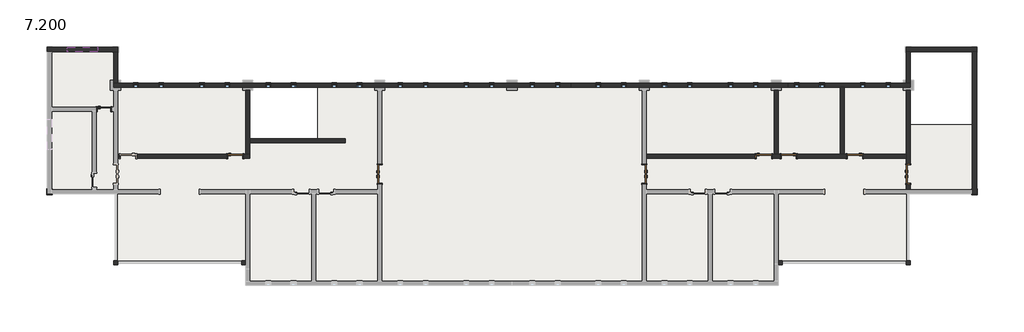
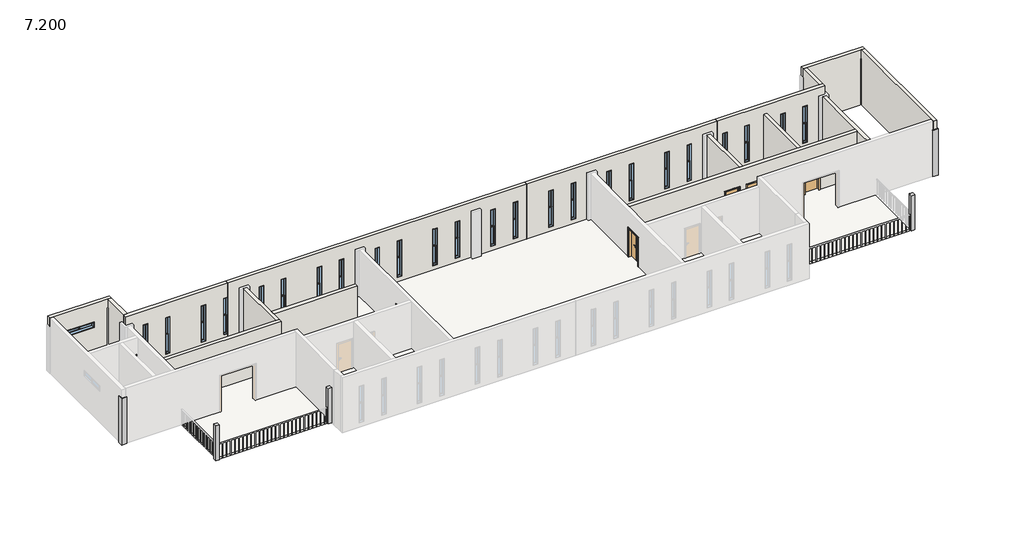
# One storey, part 2 of 3: 25 windows, 16 walls, 8 doors, 6 columns, 1 slab.
"""IFC4 building model written with IfcOpenShell, lengths in millimetres."""

from ifc_helpers import new_model, si_unit, frame, origin, place, context, project, spatial, polyline, outline, extrude, faceted_brep, transform, mapped, element, save
from components import z1_350mmx350mm_a98c464a, z1_350mmx350mm_13159b50, z3_240mmx240mm_fbb31d3a, z3_240mmx240mm_b4574760, m0921_2716a3da, m1021_ed8d65da, m1021_7d4f1ed1, m1221_25037a99, c0326_e0add0ce, c0326_266272ab, c1804_f212372e

model = new_model("IFC4")

# Units and contexts
model_context = context("Model", 3, world=origin())
ifc_project = project(units=[si_unit("LENGTHUNIT", "METRE", prefix="MILLI")], contexts=[model_context])

# Site, building, storey
site = spatial("IfcSite", under=ifc_project)
building = spatial("IfcBuilding", under=site)
storey = spatial("IfcBuildingStorey", under=building, Name="7.200", Elevation=7200.0)

# Columns
placement = place(None, origin())
z1_350mmx350mm_shape = z1_350mmx350mm_a98c464a(model_context)
element("IfcColumn", 1, ObjectType="混凝土 - 矩形 - 柱 : Z1-350mmX350mm", at=placement, inside=storey, context=model_context, shape_type="MappedRepresentation", body=[
    mapped(z1_350mmx350mm_shape, transform((-7567.0109656, -783.3904183, 0.0), x_axis=(1.0, 0.0, 0.0), y_axis=(0.0, 1.0, 0.0), z_axis=(0.0, 0.0, 1.0))),
])
z1_350mmx350mm_2_shape = z1_350mmx350mm_13159b50(model_context)
element("IfcColumn", 2, ObjectType="混凝土 - 矩形 - 柱 : Z1-350mmX350mm", at=placement, inside=storey, context=model_context, shape_type="MappedRepresentation", body=[
    mapped(z1_350mmx350mm_2_shape, transform((47032.9890344, -783.3904183, 0.0), x_axis=(-1.0, 0.0, 0.0), y_axis=(0.0, -1.0, 0.0), z_axis=(0.0, 0.0, 1.0))),
])
z3_240mmx240mm_shape = z3_240mmx240mm_fbb31d3a(model_context)
element("IfcColumn", 3, ObjectType="混凝土 - 矩形 - 柱 : Z3-240mmX240mm", at=placement, inside=storey, context=model_context, shape_type="MappedRepresentation", body=[
    mapped(z3_240mmx240mm_shape, transform((-3667.0109656, -4983.3904183, 0.0), x_axis=(1.0, 0.0, 0.0), y_axis=(0.0, 1.0, 0.0), z_axis=(0.0, 0.0, 1.0))),
])
element("IfcColumn", 4, ObjectType="混凝土 - 矩形 - 柱 : Z3-240mmX240mm", at=placement, inside=storey, context=model_context, shape_type="MappedRepresentation", body=[
    mapped(z3_240mmx240mm_shape, transform((3892.9890344, -4983.3904183, 0.0), x_axis=(1.0, 0.0, 0.0), y_axis=(0.0, 1.0, 0.0), z_axis=(0.0, 0.0, 1.0))),
])
z3_240mmx240mm_2_shape = z3_240mmx240mm_b4574760(model_context)
element("IfcColumn", 5, ObjectType="混凝土 - 矩形 - 柱 : Z3-240mmX240mm", at=placement, inside=storey, context=model_context, shape_type="MappedRepresentation", body=[
    mapped(z3_240mmx240mm_2_shape, transform((43132.9890344, -4983.3904183, 0.0), x_axis=(-1.0, 0.0, 0.0), y_axis=(0.0, -1.0, 0.0), z_axis=(0.0, 0.0, 1.0))),
])
element("IfcColumn", 6, ObjectType="混凝土 - 矩形 - 柱 : Z3-240mmX240mm", at=placement, inside=storey, context=model_context, shape_type="MappedRepresentation", body=[
    mapped(z3_240mmx240mm_2_shape, transform((35572.9890344, -4983.3904183, 0.0), x_axis=(-1.0, 0.0, 0.0), y_axis=(0.0, -1.0, 0.0), z_axis=(0.0, 0.0, 1.0))),
])

# Doors
m0921_shape = m0921_2716a3da(model_context)
element("IfcDoor", 7, ObjectType="单嵌板木门 1 : M0921", at=placement, inside=storey, context=model_context, shape_type="MappedRepresentation", body=[
    mapped(m0921_shape, transform((-4352.0109656, 4101.6095817, 7200.0), x_axis=(1.0, 0.0, 0.0), y_axis=(0.0, 1.0, 0.0), z_axis=(0.0, 0.0, 1.0))),
])
m1021_shape = m1021_ed8d65da(model_context)
element("IfcDoor", 8, ObjectType="单嵌板木门 1 : M1021", at=placement, inside=storey, context=model_context, shape_type="MappedRepresentation", body=[
    mapped(m1021_shape, transform((3397.9890344, 1316.6095817, 7200.0), x_axis=(1.0, 0.0, 0.0), y_axis=(0.0, 1.0, 0.0), z_axis=(0.0, 0.0, 1.0))),
])
element("IfcDoor", 9, ObjectType="单嵌板木门 1 : M1021", at=placement, inside=storey, context=model_context, shape_type="MappedRepresentation", body=[
    mapped(m1021_shape, transform((34597.9890344, 1316.6095817, 7200.0), x_axis=(1.0, 0.0, 0.0), y_axis=(0.0, 1.0, 0.0), z_axis=(0.0, 0.0, 1.0))),
])
m1021_2_shape = m1021_7d4f1ed1(model_context)
element("IfcDoor", 10, ObjectType="单嵌板木门 1 : M1021", at=placement, inside=storey, context=model_context, shape_type="MappedRepresentation", body=[
    mapped(m1021_2_shape, transform((36067.9890344, 1316.6095817, 7200.0), x_axis=(-1.0, 0.0, 0.0), y_axis=(0.0, -1.0, 0.0), z_axis=(0.0, 0.0, 1.0))),
])
element("IfcDoor", 11, ObjectType="单嵌板木门 1 : M1021", at=placement, inside=storey, context=model_context, shape_type="MappedRepresentation", body=[
    mapped(m1021_2_shape, transform((39967.9890344, 1316.6095817, 7200.0), x_axis=(-1.0, 0.0, 0.0), y_axis=(0.0, -1.0, 0.0), z_axis=(0.0, 0.0, 1.0))),
])
m1221_shape = m1221_25037a99(model_context)
element("IfcDoor", 12, ObjectType="双面嵌板木门 1 : M1221", at=placement, inside=storey, context=model_context, shape_type="MappedRepresentation", body=[
    mapped(m1221_shape, transform((11932.9890344, 261.6095817, 7200.0), x_axis=(0.0, 1.0, 0.0), y_axis=(-1.0, 0.0, 0.0), z_axis=(0.0, 0.0, 1.0))),
])
element("IfcDoor", 13, ObjectType="双面嵌板木门 1 : M1221", at=placement, inside=storey, context=model_context, shape_type="MappedRepresentation", body=[
    mapped(m1221_shape, transform((27532.9890344, 266.6095817, 7200.0), x_axis=(0.0, -1.0, 0.0), y_axis=(1.0, 0.0, 0.0), z_axis=(0.0, 0.0, 1.0))),
])
element("IfcDoor", 14, ObjectType="双面嵌板木门 1 : M1221", at=placement, inside=storey, context=model_context, shape_type="MappedRepresentation", body=[
    mapped(m1221_shape, transform((43132.9890344, 266.6095817, 7200.0), x_axis=(0.0, 1.0, 0.0), y_axis=(-1.0, 0.0, 0.0), z_axis=(0.0, 0.0, 1.0))),
])

# Slab
element("IfcSlab", 15, ObjectType="150mm厚钢筋混凝土", at=placement, inside=storey, context=model_context, shape_type="SweptSolid", body=[
    extrude(outline(polyline([(-3547.0109656, 7496.6095817), (-3547.0109656, 5396.6095817), (4252.9890344, 5396.6095817), (4252.9890344, 2346.6095817), (8272.9890344, 2346.6095817), (8272.9890344, 5396.6095817), (43252.9890344, 5396.6095817), (43252.9890344, 3176.6095817), (46912.9890344, 3176.6095817), (46912.9890344, -663.3904183), (43012.9890344, -663.3904183), (43012.9890344, -4863.3904183), (35212.9890344, -4863.3904183), (35212.9890344, -6063.3904183), (4252.9890344, -6063.3904183), (4252.9890344, -4863.3904183), (-3547.0109656, -4863.3904183), (-3547.0109656, -663.3904183), (-7447.0109656, -663.3904183), (-7447.0109656, 7496.6095817), (-3547.0109656, 7496.6095817)])), frame((0.0, 0.0, 7050.0), z_axis=(0.0, 0.0, 1.0), x_axis=(1.0, 0.0, 0.0)), (0.0, 0.0, 1.0), 150.0),
])

# Walls
element("IfcWall", 16, ObjectType="240mm厚墙", at=placement, inside=storey, context=model_context, shape_type="Brep", body=[
    faceted_brep([(-3547.0109656, 7736.6095817, 7200.0), (-7687.0109656, 7736.6095817, 7200.0), (-7687.0109656, 7736.6095817, 11100.0), (-3547.0109656, 7736.6095817, 11100.0), (-4717.0109656, 7736.6095817, 9800.0), (-6517.0109656, 7736.6095817, 9800.0), (-6517.0109656, 7736.6095817, 9400.0), (-4717.0109656, 7736.6095817, 9400.0), (-3547.0109656, 7496.6095817, 7200.0), (-3547.0109656, 7496.6095817, 11100.0), (-3787.0109656, 7496.6095817, 11100.0), (-7447.0109656, 7496.6095817, 11100.0), (-7687.0109656, 7496.6095817, 11100.0), (-7687.0109656, 7496.6095817, 7200.0), (-7447.0109656, 7496.6095817, 7200.0), (-3787.0109656, 7496.6095817, 7200.0), (-4717.0109656, 7496.6095817, 9800.0), (-4717.0109656, 7496.6095817, 9400.0), (-6517.0109656, 7496.6095817, 9400.0), (-6517.0109656, 7496.6095817, 9800.0)], [[[0, 1, 2, 3], [4, 5, 6, 7]], [[8, 9, 10, 11, 12, 13, 14, 15], [16, 17, 18, 19]], [[1, 0, 8, 15, 14, 13]], [[3, 2, 12, 11, 10, 9]], [[0, 3, 9, 8]], [[2, 1, 13, 12]], [[17, 16, 4, 7]], [[18, 17, 7, 6]], [[19, 18, 6, 5]], [[16, 19, 5, 4]]]),
])
element("IfcWall", 17, ObjectType="240mm厚墙", at=placement, inside=storey, context=model_context, shape_type="SweptSolid", body=[
    extrude(outline(polyline([(7200.0, 3064.12606), (7200.0, 23187.7522944), (11100.0, 23187.7522944), (11100.0, 3064.12606), (10100.0, 3064.12606), (10100.0, 3082.9890344), (7500.0, 3082.9890344), (7500.0, 3064.12606), (7200.0, 3064.12606)]), holes=[polyline([(10100.0, 5182.9890344), (10100.0, 5482.9890344), (7500.0, 5482.9890344), (7500.0, 5182.9890344), (10100.0, 5182.9890344)]), polyline([(10100.0, 6682.9890344), (10100.0, 6982.9890344), (7500.0, 6982.9890344), (7500.0, 6682.9890344), (10100.0, 6682.9890344)]), polyline([(10100.0, 9082.9890344), (10100.0, 9382.9890344), (7500.0, 9382.9890344), (7500.0, 9082.9890344), (10100.0, 9082.9890344)]), polyline([(10100.0, 10582.9890344), (10100.0, 10882.9890344), (7500.0, 10882.9890344), (7500.0, 10582.9890344), (10100.0, 10582.9890344)]), polyline([(10100.0, 18682.9890344), (7500.0, 18682.9890344), (7500.0, 18382.9890344), (10100.0, 18382.9890344), (10100.0, 18682.9890344)]), polyline([(10100.0, 17182.9890344), (7500.0, 17182.9890344), (7500.0, 16882.9890344), (10100.0, 16882.9890344), (10100.0, 17182.9890344)]), polyline([(10100.0, 14782.9890344), (7500.0, 14782.9890344), (7500.0, 14482.9890344), (10100.0, 14482.9890344), (10100.0, 14782.9890344)]), polyline([(10100.0, 13282.9890344), (7500.0, 13282.9890344), (7500.0, 12982.9890344), (10100.0, 12982.9890344), (10100.0, 13282.9890344)]), polyline([(10100.0, 20782.9890344), (10100.0, 21082.9890344), (7500.0, 21082.9890344), (7500.0, 20782.9890344), (10100.0, 20782.9890344)]), polyline([(10100.0, 22282.9890344), (10100.0, 22582.9890344), (7500.0, 22582.9890344), (7500.0, 22282.9890344), (10100.0, 22282.9890344)])]), frame((0.0, 5396.6095817, 0.0), z_axis=(0.0, 1.0, 0.0), x_axis=(0.0, 0.0, 1.0)), (0.0, 0.0, 1.0), 240.0),
])
element("IfcWall", 18, ObjectType="240mm厚墙", at=placement, inside=storey, context=model_context, shape_type="Brep", body=[
    faceted_brep([(3064.12606, 5636.6095817, 7200.0), (-3547.0109656, 5636.6095817, 7200.0), (-3787.0109656, 5636.6095817, 7200.0), (-3787.0109656, 5636.6095817, 11100.0), (-3547.0109656, 5636.6095817, 11100.0), (3064.12606, 5636.6095817, 11100.0), (3064.12606, 5636.6095817, 10100.0), (2782.9890344, 5636.6095817, 10100.0), (2782.9890344, 5636.6095817, 7500.0), (3064.12606, 5636.6095817, 7500.0), (-2317.0109656, 5636.6095817, 10100.0), (-2617.0109656, 5636.6095817, 10100.0), (-2617.0109656, 5636.6095817, 7500.0), (-2317.0109656, 5636.6095817, 7500.0), (-817.0109656, 5636.6095817, 7500.0), (-817.0109656, 5636.6095817, 10100.0), (-1117.0109656, 5636.6095817, 10100.0), (-1117.0109656, 5636.6095817, 7500.0), (1582.9890344, 5636.6095817, 7500.0), (1582.9890344, 5636.6095817, 10100.0), (1282.9890344, 5636.6095817, 10100.0), (1282.9890344, 5636.6095817, 7500.0), (-3787.0109656, 5396.6095817, 7200.0), (3064.12606, 5396.6095817, 7200.0), (3064.12606, 5396.6095817, 7500.0), (2782.9890344, 5396.6095817, 7500.0), (2782.9890344, 5396.6095817, 10100.0), (3064.12606, 5396.6095817, 10100.0), (3064.12606, 5396.6095817, 11100.0), (-3787.0109656, 5396.6095817, 11100.0), (-2317.0109656, 5396.6095817, 10100.0), (-2317.0109656, 5396.6095817, 7500.0), (-2617.0109656, 5396.6095817, 7500.0), (-2617.0109656, 5396.6095817, 10100.0), (-817.0109656, 5396.6095817, 10100.0), (-817.0109656, 5396.6095817, 7500.0), (-1117.0109656, 5396.6095817, 7500.0), (-1117.0109656, 5396.6095817, 10100.0), (1582.9890344, 5396.6095817, 10100.0), (1582.9890344, 5396.6095817, 7500.0), (1282.9890344, 5396.6095817, 7500.0), (1282.9890344, 5396.6095817, 10100.0)], [[[0, 1, 2, 3, 4, 5, 6, 7, 8, 9], [10, 11, 12, 13], [14, 15, 16, 17], [18, 19, 20, 21]], [[22, 23, 24, 25, 26, 27, 28, 29], [30, 31, 32, 33], [34, 35, 36, 37], [38, 39, 40, 41]], [[2, 1, 0, 23, 22]], [[5, 4, 3, 29, 28]], [[5, 28, 27, 6]], [[23, 0, 9, 24]], [[3, 2, 22, 29]], [[31, 30, 10, 13]], [[32, 31, 13, 12]], [[33, 32, 12, 11]], [[30, 33, 11, 10]], [[34, 15, 14, 35]], [[35, 14, 17, 36]], [[36, 17, 16, 37]], [[15, 34, 37, 16]], [[38, 19, 18, 39]], [[39, 18, 21, 40]], [[40, 21, 20, 41]], [[19, 38, 41, 20]], [[8, 25, 24, 9]], [[25, 8, 7, 26]], [[26, 7, 6, 27]]]),
])
element("IfcWall", 19, ObjectType="240mm厚墙", at=placement, inside=storey, context=model_context, shape_type="SweptSolid", body=[
    extrude(outline(polyline([(-3547.0109656, 7496.6095817), (-3547.0109656, 5636.6095817), (-3787.0109656, 5636.6095817), (-3787.0109656, 7496.6095817), (-3547.0109656, 7496.6095817)])), frame((0.0, 0.0, 7200.0), z_axis=(0.0, 0.0, 1.0), x_axis=(1.0, 0.0, 0.0)), (0.0, 0.0, 1.0), 3900.0),
])
element("IfcWall", 20, ObjectType="240mm厚墙", at=placement, inside=storey, context=model_context, shape_type="Brep", body=[
    faceted_brep([(4252.9890344, 1196.6095817, 10500.0), (-3547.0109656, 1196.6095817, 10500.0), (-3547.0109656, 1196.6095817, 7200.0), (-3432.0109656, 1196.6095817, 7200.0), (-3432.0109656, 1196.6095817, 9300.0), (-2432.0109656, 1196.6095817, 9300.0), (-2432.0109656, 1196.6095817, 7200.0), (2897.9890344, 1196.6095817, 7200.0), (2897.9890344, 1196.6095817, 9300.0), (3897.9890344, 1196.6095817, 9300.0), (3897.9890344, 1196.6095817, 7200.0), (4252.9890344, 1196.6095817, 7200.0), (-3547.0109656, 1436.6095817, 10500.0), (4012.9890344, 1436.6095817, 10500.0), (4252.9890344, 1436.6095817, 10500.0), (4252.9890344, 1436.6095817, 7200.0), (4012.9890344, 1436.6095817, 7200.0), (3897.9890344, 1436.6095817, 7200.0), (3897.9890344, 1436.6095817, 9300.0), (2897.9890344, 1436.6095817, 9300.0), (2897.9890344, 1436.6095817, 7200.0), (-2432.0109656, 1436.6095817, 7200.0), (-2432.0109656, 1436.6095817, 9300.0), (-3432.0109656, 1436.6095817, 9300.0), (-3432.0109656, 1436.6095817, 7200.0), (-3547.0109656, 1436.6095817, 7200.0)], [[[0, 1, 2, 3, 4, 5, 6, 7, 8, 9, 10, 11]], [[12, 13, 14, 15, 16, 17, 18, 19, 20, 21, 22, 23, 24, 25]], [[2, 25, 24, 3]], [[15, 11, 10, 17, 16]], [[20, 7, 6, 21]], [[1, 0, 14, 13, 12]], [[2, 1, 12, 25]], [[0, 11, 15, 14]], [[9, 18, 17, 10]], [[18, 9, 8, 19]], [[19, 8, 7, 20]], [[23, 4, 3, 24]], [[4, 23, 22, 5]], [[5, 22, 21, 6]]]),
])
element("IfcWall", 21, ObjectType="240mm厚墙", at=placement, inside=storey, context=model_context, shape_type="Brep", body=[
    faceted_brep([(4252.9890344, 1436.6095817, 7200.0), (4252.9890344, 2106.6095817, 7200.0), (4252.9890344, 2346.6095817, 7200.0), (4252.9890344, 5216.6095817, 7200.0), (4252.9890344, 5216.6095817, 10500.0), (4252.9890344, 2346.6095817, 10500.0), (4252.9890344, 2106.6095817, 10500.0), (4252.9890344, 1436.6095817, 10500.0), (4012.9890344, 1436.6095817, 7200.0), (4012.9890344, 1436.6095817, 10500.0), (4012.9890344, 5216.6095817, 10500.0), (4012.9890344, 5216.6095817, 7200.0)], [[[0, 1, 2, 3, 4, 5, 6, 7]], [[8, 9, 10, 11]], [[3, 2, 1, 0, 8, 11]], [[4, 3, 11, 10]], [[7, 6, 5, 4, 10, 9]], [[0, 7, 9, 8]]]),
])
element("IfcWall", 22, ObjectType="240mm厚墙", at=placement, inside=storey, context=model_context, shape_type="SweptSolid", body=[
    extrude(outline(polyline([(9892.9890344, 2106.6095817), (4252.9890344, 2106.6095817), (4252.9890344, 2346.6095817), (9892.9890344, 2346.6095817), (9892.9890344, 2106.6095817)])), frame((0.0, 0.0, 7200.0), z_axis=(0.0, 0.0, 1.0), x_axis=(1.0, 0.0, 0.0)), (0.0, 0.0, 1.0), 3300.0),
])
element("IfcWall", 23, ObjectType="240mm厚墙", at=placement, inside=storey, context=model_context, shape_type="Brep", body=[
    faceted_brep([(43012.9890344, 7496.6095817, 7200.0), (43252.9890344, 7496.6095817, 7200.0), (46912.9890344, 7496.6095817, 7200.0), (47152.9890344, 7496.6095817, 7200.0), (47152.9890344, 7496.6095817, 11100.0), (46912.9890344, 7496.6095817, 11100.0), (43252.9890344, 7496.6095817, 11100.0), (43012.9890344, 7496.6095817, 11100.0), (43012.9890344, 7736.6095817, 7200.0), (43012.9890344, 7736.6095817, 11100.0), (47152.9890344, 7736.6095817, 11100.0), (47152.9890344, 7736.6095817, 7200.0)], [[[0, 1, 2, 3, 4, 5, 6, 7]], [[8, 9, 10, 11]], [[3, 2, 1, 0, 8, 11]], [[7, 6, 5, 4, 10, 9]], [[4, 3, 11, 10]], [[0, 7, 9, 8]]]),
])
element("IfcWall", 24, ObjectType="240mm厚墙", at=placement, inside=storey, context=model_context, shape_type="Brep", body=[
    faceted_brep([(46912.9890344, 7496.6095817, 7200.0), (46912.9890344, -663.3904183, 7200.0), (46912.9890344, -903.3904183, 7200.0), (46912.9890344, -903.3904183, 11100.0), (46912.9890344, -663.3904183, 11100.0), (46912.9890344, 7496.6095817, 11100.0), (47152.9890344, 7496.6095817, 7200.0), (47152.9890344, 7496.6095817, 11100.0), (47152.9890344, -903.3904183, 11100.0), (47152.9890344, -903.3904183, 7200.0)], [[[0, 1, 2, 3, 4, 5]], [[6, 7, 8, 9]], [[2, 1, 0, 6, 9]], [[5, 4, 3, 8, 7]], [[3, 2, 9, 8]], [[0, 5, 7, 6]]]),
])
element("IfcWall", 25, ObjectType="240mm厚墙", at=placement, inside=storey, context=model_context, shape_type="SweptSolid", body=[
    extrude(outline(polyline([(7200.0, 23187.7522944), (7200.0, 36015.5871526), (11100.0, 36015.5871526), (11100.0, 23187.7522944), (7200.0, 23187.7522944)]), holes=[polyline([(10100.0, 24682.9890344), (10100.0, 24982.9890344), (7500.0, 24982.9890344), (7500.0, 24682.9890344), (10100.0, 24682.9890344)]), polyline([(10100.0, 26182.9890344), (10100.0, 26482.9890344), (7500.0, 26482.9890344), (7500.0, 26182.9890344), (10100.0, 26182.9890344)]), polyline([(10100.0, 34282.9890344), (7500.0, 34282.9890344), (7500.0, 33982.9890344), (10100.0, 33982.9890344), (10100.0, 34282.9890344)]), polyline([(10100.0, 32782.9890344), (7500.0, 32782.9890344), (7500.0, 32482.9890344), (10100.0, 32482.9890344), (10100.0, 32782.9890344)]), polyline([(10100.0, 30382.9890344), (7500.0, 30382.9890344), (7500.0, 30082.9890344), (10100.0, 30082.9890344), (10100.0, 30382.9890344)]), polyline([(10100.0, 28882.9890344), (7500.0, 28882.9890344), (7500.0, 28582.9890344), (10100.0, 28582.9890344), (10100.0, 28882.9890344)])]), frame((0.0, 5396.6095817, 0.0), z_axis=(0.0, 1.0, 0.0), x_axis=(0.0, 0.0, 1.0)), (0.0, 0.0, 1.0), 240.0),
])
element("IfcWall", 26, ObjectType="240mm厚墙", at=placement, inside=storey, context=model_context, shape_type="Brep", body=[
    faceted_brep([(36015.5871526, 5396.6095817, 7200.0), (39112.9890344, 5396.6095817, 7200.0), (39352.9890344, 5396.6095817, 7200.0), (43252.9890344, 5396.6095817, 7200.0), (43252.9890344, 5396.6095817, 11100.0), (36015.5871526, 5396.6095817, 11100.0), (36382.9890344, 5396.6095817, 10100.0), (36682.9890344, 5396.6095817, 10100.0), (36682.9890344, 5396.6095817, 7500.0), (36382.9890344, 5396.6095817, 7500.0), (37882.9890344, 5396.6095817, 10100.0), (38182.9890344, 5396.6095817, 10100.0), (38182.9890344, 5396.6095817, 7500.0), (37882.9890344, 5396.6095817, 7500.0), (40282.9890344, 5396.6095817, 10100.0), (40582.9890344, 5396.6095817, 10100.0), (40582.9890344, 5396.6095817, 7500.0), (40282.9890344, 5396.6095817, 7500.0), (41782.9890344, 5396.6095817, 10100.0), (42082.9890344, 5396.6095817, 10100.0), (42082.9890344, 5396.6095817, 7500.0), (41782.9890344, 5396.6095817, 7500.0), (36015.5871526, 5636.6095817, 7200.0), (36015.5871526, 5636.6095817, 11100.0), (43012.9890344, 5636.6095817, 11100.0), (43252.9890344, 5636.6095817, 11100.0), (43252.9890344, 5636.6095817, 7200.0), (43012.9890344, 5636.6095817, 7200.0), (36382.9890344, 5636.6095817, 10100.0), (36382.9890344, 5636.6095817, 7500.0), (36682.9890344, 5636.6095817, 7500.0), (36682.9890344, 5636.6095817, 10100.0), (37882.9890344, 5636.6095817, 10100.0), (37882.9890344, 5636.6095817, 7500.0), (38182.9890344, 5636.6095817, 7500.0), (38182.9890344, 5636.6095817, 10100.0), (40282.9890344, 5636.6095817, 10100.0), (40282.9890344, 5636.6095817, 7500.0), (40582.9890344, 5636.6095817, 7500.0), (40582.9890344, 5636.6095817, 10100.0), (41782.9890344, 5636.6095817, 10100.0), (41782.9890344, 5636.6095817, 7500.0), (42082.9890344, 5636.6095817, 7500.0), (42082.9890344, 5636.6095817, 10100.0)], [[[0, 1, 2, 3, 4, 5], [6, 7, 8, 9], [10, 11, 12, 13], [14, 15, 16, 17], [18, 19, 20, 21]], [[22, 23, 24, 25, 26, 27], [28, 29, 30, 31], [32, 33, 34, 35], [36, 37, 38, 39], [40, 41, 42, 43]], [[3, 2, 1, 0, 22, 27, 26]], [[5, 4, 25, 24, 23]], [[0, 5, 23, 22]], [[4, 3, 26, 25]], [[29, 28, 6, 9]], [[30, 29, 9, 8]], [[31, 30, 8, 7]], [[28, 31, 7, 6]], [[33, 32, 10, 13]], [[34, 33, 13, 12]], [[35, 34, 12, 11]], [[32, 35, 11, 10]], [[37, 36, 14, 17]], [[38, 37, 17, 16]], [[39, 38, 16, 15]], [[36, 39, 15, 14]], [[41, 40, 18, 21]], [[42, 41, 21, 20]], [[43, 42, 20, 19]], [[40, 43, 19, 18]]]),
])
element("IfcWall", 27, ObjectType="240mm厚墙", at=placement, inside=storey, context=model_context, shape_type="SweptSolid", body=[
    extrude(outline(polyline([(43252.9890344, 7496.6095817), (43252.9890344, 5636.6095817), (43012.9890344, 5636.6095817), (43012.9890344, 7496.6095817), (43252.9890344, 7496.6095817)])), frame((0.0, 0.0, 7200.0), z_axis=(0.0, 0.0, 1.0), x_axis=(1.0, 0.0, 0.0)), (0.0, 0.0, 1.0), 3900.0),
])
element("IfcWall", 28, ObjectType="240mm厚墙", at=placement, inside=storey, context=model_context, shape_type="Brep", body=[
    faceted_brep([(43012.9890344, -663.3904183, 10500.0), (43012.9890344, 1196.6095817, 10500.0), (43012.9890344, 1436.6095817, 10500.0), (43012.9890344, 5216.6095817, 10500.0), (43012.9890344, 5216.6095817, 7200.0), (43012.9890344, 1436.6095817, 7200.0), (43012.9890344, 1196.6095817, 7200.0), (43012.9890344, 866.6095817, 7200.0), (43012.9890344, 866.6095817, 9300.0), (43012.9890344, -333.3904183, 9300.0), (43012.9890344, -333.3904183, 7200.0), (43012.9890344, -663.3904183, 7200.0), (43252.9890344, 5216.6095817, 10500.0), (43252.9890344, -663.3904183, 10500.0), (43252.9890344, -663.3904183, 7200.0), (43252.9890344, -333.3904183, 7200.0), (43252.9890344, -333.3904183, 9300.0), (43252.9890344, 866.6095817, 9300.0), (43252.9890344, 866.6095817, 7200.0), (43252.9890344, 5216.6095817, 7200.0)], [[[0, 1, 2, 3, 4, 5, 6, 7, 8, 9, 10, 11]], [[12, 13, 14, 15, 16, 17, 18, 19]], [[4, 19, 18, 7, 6, 5]], [[14, 11, 10, 15]], [[3, 2, 1, 0, 13, 12]], [[4, 3, 12, 19]], [[0, 11, 14, 13]], [[17, 8, 7, 18]], [[8, 17, 16, 9]], [[9, 16, 15, 10]]]),
])
element("IfcWall", 29, ObjectType="240mm厚墙", at=placement, inside=storey, context=model_context, shape_type="Brep", body=[
    faceted_brep([(27652.9890344, 1436.6095817, 10500.0), (35212.9890344, 1436.6095817, 10500.0), (35452.9890344, 1436.6095817, 10500.0), (39112.9890344, 1436.6095817, 10500.0), (39352.9890344, 1436.6095817, 10500.0), (43012.9890344, 1436.6095817, 10500.0), (43012.9890344, 1436.6095817, 7200.0), (40467.9890344, 1436.6095817, 7200.0), (40467.9890344, 1436.6095817, 9300.0), (39467.9890344, 1436.6095817, 9300.0), (39467.9890344, 1436.6095817, 7200.0), (39352.9890344, 1436.6095817, 7200.0), (39112.9890344, 1436.6095817, 7200.0), (36567.9890344, 1436.6095817, 7200.0), (36567.9890344, 1436.6095817, 9300.0), (35567.9890344, 1436.6095817, 9300.0), (35567.9890344, 1436.6095817, 7200.0), (35452.9890344, 1436.6095817, 7200.0), (35212.9890344, 1436.6095817, 7200.0), (35097.9890344, 1436.6095817, 7200.0), (35097.9890344, 1436.6095817, 9300.0), (34097.9890344, 1436.6095817, 9300.0), (34097.9890344, 1436.6095817, 7200.0), (27652.9890344, 1436.6095817, 7200.0), (43012.9890344, 1196.6095817, 10500.0), (27652.9890344, 1196.6095817, 10500.0), (27652.9890344, 1196.6095817, 7200.0), (34097.9890344, 1196.6095817, 7200.0), (34097.9890344, 1196.6095817, 9300.0), (35097.9890344, 1196.6095817, 9300.0), (35097.9890344, 1196.6095817, 7200.0), (35567.9890344, 1196.6095817, 7200.0), (35567.9890344, 1196.6095817, 9300.0), (36567.9890344, 1196.6095817, 9300.0), (36567.9890344, 1196.6095817, 7200.0), (39467.9890344, 1196.6095817, 7200.0), (39467.9890344, 1196.6095817, 9300.0), (40467.9890344, 1196.6095817, 9300.0), (40467.9890344, 1196.6095817, 7200.0), (43012.9890344, 1196.6095817, 7200.0)], [[[0, 1, 2, 3, 4, 5, 6, 7, 8, 9, 10, 11, 12, 13, 14, 15, 16, 17, 18, 19, 20, 21, 22, 23]], [[24, 25, 26, 27, 28, 29, 30, 31, 32, 33, 34, 35, 36, 37, 38, 39]], [[6, 39, 38, 7]], [[26, 23, 22, 27]], [[30, 19, 18, 17, 16, 31]], [[34, 13, 12, 11, 10, 35]], [[5, 4, 3, 2, 1, 0, 25, 24]], [[6, 5, 24, 39]], [[0, 23, 26, 25]], [[29, 20, 19, 30]], [[20, 29, 28, 21]], [[21, 28, 27, 22]], [[15, 32, 31, 16]], [[32, 15, 14, 33]], [[33, 14, 13, 34]], [[9, 36, 35, 10]], [[36, 9, 8, 37]], [[37, 8, 7, 38]]]),
])
element("IfcWall", 30, ObjectType="240mm厚墙", at=placement, inside=storey, context=model_context, shape_type="SweptSolid", body=[
    extrude(outline(polyline([(35452.9890344, 5216.6095817), (35452.9890344, 1436.6095817), (35212.9890344, 1436.6095817), (35212.9890344, 5216.6095817), (35452.9890344, 5216.6095817)])), frame((0.0, 0.0, 7200.0), z_axis=(0.0, 0.0, 1.0), x_axis=(1.0, 0.0, 0.0)), (0.0, 0.0, 1.0), 3300.0),
])
element("IfcWall", 31, ObjectType="240mm厚墙", at=placement, inside=storey, context=model_context, shape_type="SweptSolid", body=[
    extrude(outline(polyline([(39112.9890344, 1436.6095817), (39112.9890344, 5396.6095817), (39352.9890344, 5396.6095817), (39352.9890344, 1436.6095817), (39112.9890344, 1436.6095817)])), frame((0.0, 0.0, 7200.0), z_axis=(0.0, 0.0, 1.0), x_axis=(1.0, 0.0, 0.0)), (0.0, 0.0, 1.0), 3300.0),
])

# Windows
c0326_shape = c0326_e0add0ce(model_context)
element("IfcWindow", 32, ObjectType="上下拉窗1 : C0326", at=placement, inside=storey, context=model_context, shape_type="MappedRepresentation", body=[
    mapped(c0326_shape, transform((-2467.0109656, 5516.848042, 6600.0), x_axis=(1.0, 0.0, 0.0), y_axis=(0.0, 1.0, 0.0), z_axis=(0.0, 0.0, 1.0))),
])
element("IfcWindow", 33, ObjectType="上下拉窗1 : C0326", at=placement, inside=storey, context=model_context, shape_type="MappedRepresentation", body=[
    mapped(c0326_shape, transform((-967.0109656, 5516.848042, 6600.0), x_axis=(1.0, 0.0, 0.0), y_axis=(0.0, 1.0, 0.0), z_axis=(0.0, 0.0, 1.0))),
])
element("IfcWindow", 34, ObjectType="上下拉窗1 : C0326", at=placement, inside=storey, context=model_context, shape_type="MappedRepresentation", body=[
    mapped(c0326_shape, transform((1432.9890344, 5516.848042, 6600.0), x_axis=(1.0, 0.0, 0.0), y_axis=(0.0, 1.0, 0.0), z_axis=(0.0, 0.0, 1.0))),
])
element("IfcWindow", 35, ObjectType="上下拉窗1 : C0326", at=placement, inside=storey, context=model_context, shape_type="MappedRepresentation", body=[
    mapped(c0326_shape, transform((2932.9890344, 5516.848042, 6600.0), x_axis=(1.0, 0.0, 0.0), y_axis=(0.0, 1.0, 0.0), z_axis=(0.0, 0.0, 1.0))),
])
element("IfcWindow", 36, ObjectType="上下拉窗1 : C0326", at=placement, inside=storey, context=model_context, shape_type="MappedRepresentation", body=[
    mapped(c0326_shape, transform((13132.9890344, 5516.848042, 6600.0), x_axis=(1.0, 0.0, 0.0), y_axis=(0.0, 1.0, 0.0), z_axis=(0.0, 0.0, 1.0))),
])
element("IfcWindow", 37, ObjectType="上下拉窗1 : C0326", at=placement, inside=storey, context=model_context, shape_type="MappedRepresentation", body=[
    mapped(c0326_shape, transform((14632.9890344, 5516.848042, 6600.0), x_axis=(1.0, 0.0, 0.0), y_axis=(0.0, 1.0, 0.0), z_axis=(0.0, 0.0, 1.0))),
])
element("IfcWindow", 38, ObjectType="上下拉窗1 : C0326", at=placement, inside=storey, context=model_context, shape_type="MappedRepresentation", body=[
    mapped(c0326_shape, transform((17032.9890344, 5516.848042, 6600.0), x_axis=(1.0, 0.0, 0.0), y_axis=(0.0, 1.0, 0.0), z_axis=(0.0, 0.0, 1.0))),
])
element("IfcWindow", 39, ObjectType="上下拉窗1 : C0326", at=placement, inside=storey, context=model_context, shape_type="MappedRepresentation", body=[
    mapped(c0326_shape, transform((18532.9890344, 5516.848042, 6600.0), x_axis=(1.0, 0.0, 0.0), y_axis=(0.0, 1.0, 0.0), z_axis=(0.0, 0.0, 1.0))),
])
element("IfcWindow", 40, ObjectType="上下拉窗1 : C0326", at=placement, inside=storey, context=model_context, shape_type="MappedRepresentation", body=[
    mapped(c0326_shape, transform((28732.9890344, 5516.848042, 6600.0), x_axis=(1.0, 0.0, 0.0), y_axis=(0.0, 1.0, 0.0), z_axis=(0.0, 0.0, 1.0))),
])
element("IfcWindow", 41, ObjectType="上下拉窗1 : C0326", at=placement, inside=storey, context=model_context, shape_type="MappedRepresentation", body=[
    mapped(c0326_shape, transform((30232.9890344, 5516.848042, 6600.0), x_axis=(1.0, 0.0, 0.0), y_axis=(0.0, 1.0, 0.0), z_axis=(0.0, 0.0, 1.0))),
])
element("IfcWindow", 42, ObjectType="上下拉窗1 : C0326", at=placement, inside=storey, context=model_context, shape_type="MappedRepresentation", body=[
    mapped(c0326_shape, transform((32632.9890344, 5516.848042, 6600.0), x_axis=(1.0, 0.0, 0.0), y_axis=(0.0, 1.0, 0.0), z_axis=(0.0, 0.0, 1.0))),
])
element("IfcWindow", 43, ObjectType="上下拉窗1 : C0326", at=placement, inside=storey, context=model_context, shape_type="MappedRepresentation", body=[
    mapped(c0326_shape, transform((34132.9890344, 5516.848042, 6600.0), x_axis=(1.0, 0.0, 0.0), y_axis=(0.0, 1.0, 0.0), z_axis=(0.0, 0.0, 1.0))),
])
c0326_2_shape = c0326_266272ab(model_context)
element("IfcWindow", 44, ObjectType="上下拉窗1 : C0326", at=placement, inside=storey, context=model_context, shape_type="MappedRepresentation", body=[
    mapped(c0326_2_shape, transform((10732.9890344, 5516.848042, 6600.0), x_axis=(-1.0, 0.0, 0.0), y_axis=(0.0, -1.0, 0.0), z_axis=(0.0, 0.0, 1.0))),
])
element("IfcWindow", 45, ObjectType="上下拉窗1 : C0326", at=placement, inside=storey, context=model_context, shape_type="MappedRepresentation", body=[
    mapped(c0326_2_shape, transform((9232.9890344, 5516.848042, 6600.0), x_axis=(-1.0, 0.0, 0.0), y_axis=(0.0, -1.0, 0.0), z_axis=(0.0, 0.0, 1.0))),
])
element("IfcWindow", 46, ObjectType="上下拉窗1 : C0326", at=placement, inside=storey, context=model_context, shape_type="MappedRepresentation", body=[
    mapped(c0326_2_shape, transform((6832.9890344, 5516.848042, 6600.0), x_axis=(-1.0, 0.0, 0.0), y_axis=(0.0, -1.0, 0.0), z_axis=(0.0, 0.0, 1.0))),
])
element("IfcWindow", 47, ObjectType="上下拉窗1 : C0326", at=placement, inside=storey, context=model_context, shape_type="MappedRepresentation", body=[
    mapped(c0326_2_shape, transform((5332.9890344, 5516.848042, 6600.0), x_axis=(-1.0, 0.0, 0.0), y_axis=(0.0, -1.0, 0.0), z_axis=(0.0, 0.0, 1.0))),
])
element("IfcWindow", 48, ObjectType="上下拉窗1 : C0326", at=placement, inside=storey, context=model_context, shape_type="MappedRepresentation", body=[
    mapped(c0326_2_shape, transform((26332.9890344, 5516.848042, 6600.0), x_axis=(-1.0, 0.0, 0.0), y_axis=(0.0, -1.0, 0.0), z_axis=(0.0, 0.0, 1.0))),
])
element("IfcWindow", 49, ObjectType="上下拉窗1 : C0326", at=placement, inside=storey, context=model_context, shape_type="MappedRepresentation", body=[
    mapped(c0326_2_shape, transform((24832.9890344, 5516.848042, 6600.0), x_axis=(-1.0, 0.0, 0.0), y_axis=(0.0, -1.0, 0.0), z_axis=(0.0, 0.0, 1.0))),
])
element("IfcWindow", 50, ObjectType="上下拉窗1 : C0326", at=placement, inside=storey, context=model_context, shape_type="MappedRepresentation", body=[
    mapped(c0326_2_shape, transform((22432.9890344, 5516.848042, 6600.0), x_axis=(-1.0, 0.0, 0.0), y_axis=(0.0, -1.0, 0.0), z_axis=(0.0, 0.0, 1.0))),
])
element("IfcWindow", 51, ObjectType="上下拉窗1 : C0326", at=placement, inside=storey, context=model_context, shape_type="MappedRepresentation", body=[
    mapped(c0326_2_shape, transform((20932.9890344, 5516.848042, 6600.0), x_axis=(-1.0, 0.0, 0.0), y_axis=(0.0, -1.0, 0.0), z_axis=(0.0, 0.0, 1.0))),
])
element("IfcWindow", 52, ObjectType="上下拉窗1 : C0326", at=placement, inside=storey, context=model_context, shape_type="MappedRepresentation", body=[
    mapped(c0326_2_shape, transform((41932.9890344, 5516.848042, 6600.0), x_axis=(-1.0, 0.0, 0.0), y_axis=(0.0, -1.0, 0.0), z_axis=(0.0, 0.0, 1.0))),
])
element("IfcWindow", 53, ObjectType="上下拉窗1 : C0326", at=placement, inside=storey, context=model_context, shape_type="MappedRepresentation", body=[
    mapped(c0326_2_shape, transform((40432.9890344, 5516.848042, 6600.0), x_axis=(-1.0, 0.0, 0.0), y_axis=(0.0, -1.0, 0.0), z_axis=(0.0, 0.0, 1.0))),
])
element("IfcWindow", 54, ObjectType="上下拉窗1 : C0326", at=placement, inside=storey, context=model_context, shape_type="MappedRepresentation", body=[
    mapped(c0326_2_shape, transform((38032.9890344, 5516.848042, 6600.0), x_axis=(-1.0, 0.0, 0.0), y_axis=(0.0, -1.0, 0.0), z_axis=(0.0, 0.0, 1.0))),
])
element("IfcWindow", 55, ObjectType="上下拉窗1 : C0326", at=placement, inside=storey, context=model_context, shape_type="MappedRepresentation", body=[
    mapped(c0326_2_shape, transform((36532.9890344, 5516.848042, 6600.0), x_axis=(-1.0, 0.0, 0.0), y_axis=(0.0, -1.0, 0.0), z_axis=(0.0, 0.0, 1.0))),
])
c1804_shape = c1804_f212372e(model_context)
element("IfcWindow", 56, ObjectType="推拉窗6 : C1804", at=placement, inside=storey, context=model_context, shape_type="MappedRepresentation", body=[
    mapped(c1804_shape, transform((-5626.5359656, 7683.4830192, 8800.0), x_axis=(1.0, 0.0, 0.0), y_axis=(0.0, 1.0, 0.0), z_axis=(0.0, 0.0, 1.0))),
])

save(model, "model.ifc")
